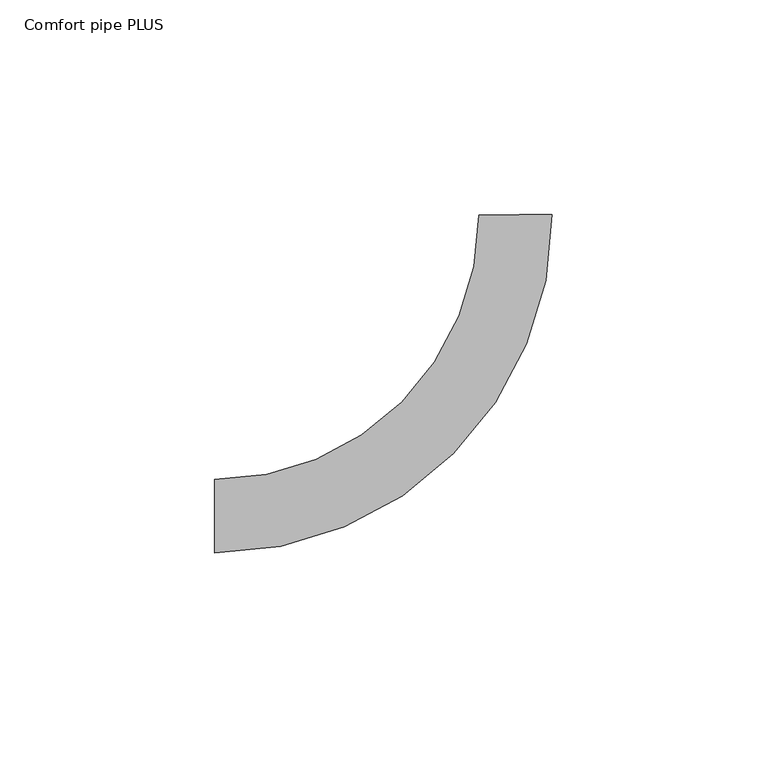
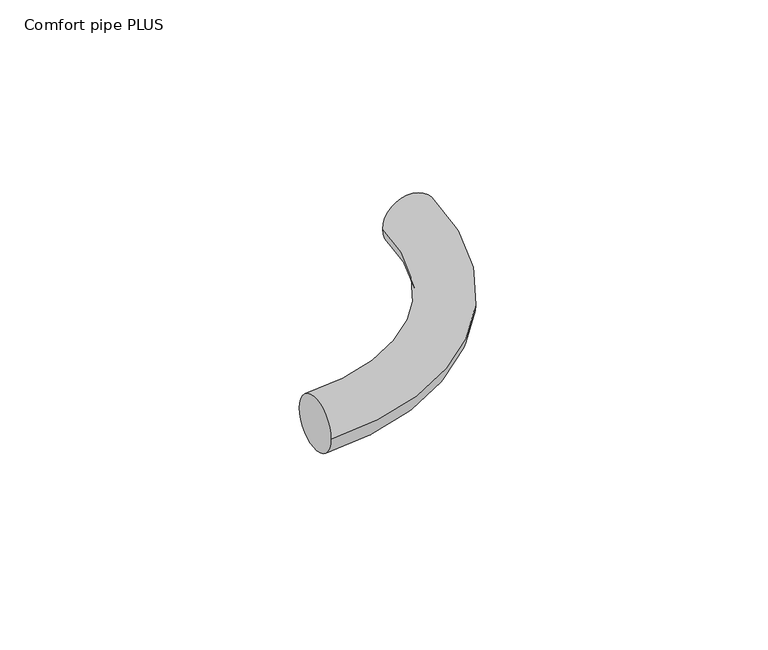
"""IFC4 building model written with IfcOpenShell, lengths in millimetres: pipe fitting geometry, 400_5-_Uponor_curved_Elbow : Comfort pipe PLUS."""

import ifcopenshell
import ifcopenshell.guid

model = None  # the IFC model being written
_history = None  # IfcOwnerHistory: only IFC2X3 demands one
_inside = {}  # id of a spatial element -> (the spatial element, [elements in it])
_under = {}  # id of a project, library or spatial element -> (it, [spatial elements below it])
_declared = {}  # id of a project -> (the project, [libraries it declares])
_typed = {}  # id of a type object -> (the type object, [elements of that type])
_made_of = {}  # id of a material, layer set ... -> (it, [elements and type objects made of it])


def new_model(schema):
    """Start an empty IFC model of exactly this schema.

    Asked for "IFC4X3", IfcOpenShell would pick the latest addendum, in which some entities
    have other attributes; the version numbers below select the first issue.
    IFC2X3 requires an IfcOwnerHistory on every rooted entity: one is made here for all.
    """
    global model, _history
    if schema == "IFC4X3":
        model = ifcopenshell.file(schema_version=(4, 3, 0, 0))
    else:
        model = ifcopenshell.file(schema=schema)
    _inside.clear()
    _under.clear()
    _declared.clear()
    _typed.clear()
    _made_of.clear()
    _history = None
    if model.schema == "IFC2X3":
        org = make("IfcOrganization", Name="unknown")
        user = make(
            "IfcPersonAndOrganization",
            ThePerson=make("IfcPerson", FamilyName="unknown"),
            TheOrganization=org,
        )
        app = make(
            "IfcApplication",
            ApplicationDeveloper=org,
            Version="unknown",
            ApplicationFullName="unknown",
            ApplicationIdentifier="unknown",
        )
        _history = make(
            "IfcOwnerHistory",
            OwningUser=user,
            OwningApplication=app,
            ChangeAction="ADDED",
            CreationDate=0,
        )
    return model


def make(cls, **values):
    """One entity of the class cls with the attributes given. An attribute that is None is left unset."""
    return model.create_entity(
        cls, **{name: value for name, value in values.items() if value is not None}
    )


def rooted(cls, **values):
    """An entity with a GlobalId (a new one), such as an element, a storey or a relation."""
    return make(cls, GlobalId=ifcopenshell.guid.new(), OwnerHistory=_history, **values)


def si_unit(unit_type, name, prefix=None):
    """IfcSIUnit, for example si_unit("LENGTHUNIT", "METRE", prefix="MILLI")."""
    return make("IfcSIUnit", UnitType=unit_type, Prefix=prefix, Name=name)


def assignment(units):
    """IfcUnitAssignment: the units of a project."""
    return None if units is None else make("IfcUnitAssignment", Units=units)


def point(xyz):
    """IfcCartesianPoint."""
    return None if xyz is None else make("IfcCartesianPoint", Coordinates=xyz)


def direction(xyz):
    """IfcDirection."""
    return None if xyz is None else make("IfcDirection", DirectionRatios=xyz)


def frame(location, z_axis=None, x_axis=None):
    """IfcAxis2Placement3D, a coordinate frame: its origin and axes. An axis left out is left unset."""
    return make(
        "IfcAxis2Placement3D",
        Location=point(location),
        Axis=direction(z_axis),
        RefDirection=direction(x_axis),
    )


def origin():
    """The frame at (0, 0, 0) with its axes left unset."""
    return frame((0.0, 0.0, 0.0))


def place(relative_to, where):
    """IfcLocalPlacement: puts the frame where relative to a parent placement (None: the world)."""
    return make(
        "IfcLocalPlacement", PlacementRelTo=relative_to, RelativePlacement=where
    )


def context(
    kind, dimensions, precision=None, world=None, true_north=None, identifier=None
):
    """IfcGeometricRepresentationContext, for example the 3D "Model" context."""
    return make(
        "IfcGeometricRepresentationContext",
        ContextIdentifier=identifier,
        ContextType=kind,
        CoordinateSpaceDimension=dimensions,
        Precision=precision,
        WorldCoordinateSystem=world,
        TrueNorth=true_north,
    )


def project(units=None, contexts=None):
    """IfcProject with its units and contexts."""
    return rooted(
        "IfcProject",
        Name="project",
        RepresentationContexts=contexts,
        UnitsInContext=assignment(units),
    )


def spatial(cls, under=None, at=None, **own):
    """A site, building, storey or space (cls), placed at a placement, below another one or the project."""
    s = rooted(cls, ObjectPlacement=at, **own)
    if under is not None:
        _under.setdefault(under.id(), (under, []))[1].append(s)
    return s


def circle_curve(where, radius):
    """IfcCircle in the frame where."""
    return make("IfcCircle", Position=where, Radius=radius)


def ellipse_curve(where, semi_axis1, semi_axis2):
    """IfcEllipse in the frame where."""
    return make(
        "IfcEllipse", Position=where, SemiAxis1=semi_axis1, SemiAxis2=semi_axis2
    )


def trimmed(basis, trim1, trim2, sense, master):
    """IfcTrimmedCurve: the piece of a basis curve between two trims."""
    return make(
        "IfcTrimmedCurve",
        BasisCurve=basis,
        Trim1=trim1,
        Trim2=trim2,
        SenseAgreement=sense,
        MasterRepresentation=master,
    )


def shape(context_of_items, identifier, shape_type, items):
    """IfcShapeRepresentation: the items that make up one representation, for example the "Body"."""
    return make(
        "IfcShapeRepresentation",
        ContextOfItems=context_of_items,
        RepresentationIdentifier=identifier,
        RepresentationType=shape_type,
        Items=items,
    )


def source(mapping_origin, context_of_items, identifier, shape_type, items):
    """IfcRepresentationMap: a shape defined once, which mapped items show again and again."""
    return make(
        "IfcRepresentationMap",
        MappingOrigin=mapping_origin,
        MappedRepresentation=shape(context_of_items, identifier, shape_type, items),
    )


def transform(
    local_origin,
    x_axis=None,
    y_axis=None,
    z_axis=None,
    scale=None,
    scale2=None,
    scale3=None,
    uniform=True,
):
    """IfcCartesianTransformationOperator3D, or its non-uniform kind. x_axis, y_axis, z_axis: its Axis1, 2, 3."""
    if uniform:
        return make(
            "IfcCartesianTransformationOperator3D",
            Axis1=direction(x_axis),
            Axis2=direction(y_axis),
            LocalOrigin=point(local_origin),
            Scale=scale,
            Axis3=direction(z_axis),
        )
    return make(
        "IfcCartesianTransformationOperator3DnonUniform",
        Axis1=direction(x_axis),
        Axis2=direction(y_axis),
        LocalOrigin=point(local_origin),
        Scale=scale,
        Axis3=direction(z_axis),
        Scale2=scale2,
        Scale3=scale3,
    )


def mapped(mapping_source, mapping_target):
    """IfcMappedItem: shows the shape of a source again, moved by a transform."""
    return make(
        "IfcMappedItem", MappingSource=mapping_source, MappingTarget=mapping_target
    )


def made_of(thing, what):
    """Note that an element or type object is made of a material, layer set ...; save() writes the relation."""
    if what is not None:
        _made_of.setdefault(what.id(), (what, []))[1].append(thing)
    return thing


def element(
    cls,
    number,
    at=None,
    inside=None,
    cuts=None,
    type_object=None,
    material=None,
    context=None,
    identifier="Body",
    shape_type=None,
    held_by="IfcProductDefinitionShape",
    body=None,
    shapes=None,
    **own,
):
    """One element of the class cls, such as IfcWall. Its Tag is "e" and its number.

    at: its placement. inside: the storey or other place that contains it. cuts: it is an
    opening in that element (IfcRelVoidsElement). A single representation is given by context,
    identifier, shape_type and body (its items); several are given by shapes. held_by: the class
    of the entity that holds the representations. save() writes the other relations.
    """
    e = rooted(cls, Tag="e%d" % number, ObjectPlacement=at, **own)
    if body is not None:
        shapes = [shape(context, identifier, shape_type, body)]
    if shapes is not None:
        e.Representation = make(held_by, Representations=shapes)
    if inside is not None:
        _inside.setdefault(inside.id(), (inside, []))[1].append(e)
    if cuts is not None:
        rooted(
            "IfcRelVoidsElement", RelatingBuildingElement=cuts, RelatedOpeningElement=e
        )
    if type_object is not None:
        _typed.setdefault(type_object.id(), (type_object, []))[1].append(e)
    return made_of(e, material)


def aggregate(whole, parts):
    """IfcRelAggregates: a whole, such as a stair, and the parts it consists of."""
    return rooted("IfcRelAggregates", RelatingObject=whole, RelatedObjects=parts)


def save(model, path):
    """Write the relations noted so far, then the file.

    IfcRelAggregates (storeys below a building ...), IfcRelContainedInSpatialStructure (elements
    in a storey), IfcRelDefinesByType, IfcRelAssociatesMaterial and IfcRelDeclares: one each for
    every whole, place, type object, material and project.
    """
    for whole, parts in _under.values():
        aggregate(whole, parts)
    for where, things in _inside.values():
        rooted(
            "IfcRelContainedInSpatialStructure",
            RelatedElements=things,
            RelatingStructure=where,
        )
    for kind, things in _typed.values():
        rooted("IfcRelDefinesByType", RelatedObjects=things, RelatingType=kind)
    for what, things in _made_of.values():
        rooted("IfcRelAssociatesMaterial", RelatedObjects=things, RelatingMaterial=what)
    for by, libraries in _declared.values():
        rooted("IfcRelDeclares", RelatingContext=by, RelatedDefinitions=libraries)
    model.write(path)


def plane_surface(at):
    """IfcPlane: the flat surface through the origin of the frame at, square to its z axis."""
    return make("IfcPlane", Position=at)


def revolved_surface(curve, axis_point, axis_direction):
    """IfcSurfaceOfRevolution: the curve turned about the line through axis_point along axis_direction."""
    return make(
        "IfcSurfaceOfRevolution",
        SweptCurve=make("IfcArbitraryOpenProfileDef", ProfileType="CURVE", Curve=curve),
        AxisPosition=make("IfcAxis1Placement", Location=point(axis_point), Axis=direction(axis_direction)),
    )


def advanced_brep(points, edges, surfaces, faces):
    """IfcAdvancedBrep: a solid bounded by faces that lie on surfaces and meet in shared edges.

    An edge is (start, end): straight between two places in points (the first is 0);
    or (start, end, curve); or (start, end, curve, False) where it runs against its curve.
    A face is (place in surfaces, loops), or (place, loops, False) where it looks against
    its surface's normal. A loop lists edges by number (the first is 1), with a minus sign
    where the edge is run from its end to its start. The first loop is the outer one.
    """
    corners = [point(p) for p in points]
    vertices = [make("IfcVertexPoint", VertexGeometry=c) for c in corners]
    made = []
    for start, end, *more in edges:
        made.append(
            make(
                "IfcEdgeCurve",
                EdgeStart=vertices[start],
                EdgeEnd=vertices[end],
                EdgeGeometry=more[0] if more else make("IfcPolyline", Points=[corners[start], corners[end]]),
                SameSense=more[1] if len(more) > 1 else True,
            )
        )
    hull = []
    for where, loops, *sense in faces:
        bounds = []
        for j, loop in enumerate(loops):
            ring = [make("IfcOrientedEdge", EdgeElement=made[abs(k) - 1], Orientation=k > 0) for k in loop]
            bounds.append(
                make(
                    "IfcFaceOuterBound" if j == 0 else "IfcFaceBound",
                    Bound=make("IfcEdgeLoop", EdgeList=ring),
                    Orientation=True,
                )
            )
        hull.append(make("IfcAdvancedFace", Bounds=bounds, FaceSurface=surfaces[where], SameSense=sense[0] if sense else True))
    return make("IfcAdvancedBrep", Outer=make("IfcClosedShell", CfsFaces=hull))


def comfort_pipe_plus_e869fb8a(model_context):
    return source(origin(), model_context, "Body", "AdvancedBrep", [
        advanced_brep(
        [(-70.1393451, -8.5, 0.0), (-70.1393451, 8.5, 0.0), (8.3604997, 70.1561101, 0.0), (-8.6394667, 70.1223028, 0.0)],
        [
            (0, 1, circle_curve(frame((-70.1393451, 0.0, 0.0), z_axis=(-1.0, 0.0, 0.0), x_axis=(0.0, 1.0, 0.0)), 8.5)),
            (1, 0, circle_curve(frame((-70.1393451, 0.0, 0.0), z_axis=(-1.0, 0.0, 0.0), x_axis=(0.0, 1.0, 0.0)), 8.5)),
            (2, 3, circle_curve(frame((-0.1394835, 70.1392064, 0.0), z_axis=(-0.0019886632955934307, 0.9999980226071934, 0.0), x_axis=(-0.9999980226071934, -0.0019886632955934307, 0.0)), 8.5)),
            (3, 2, circle_curve(frame((-0.1394835, 70.1392064, 0.0), z_axis=(-0.0019886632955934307, 0.9999980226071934, 0.0), x_axis=(-0.9999980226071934, -0.0019886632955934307, 0.0)), 8.5)),
            (3, 1, circle_curve(frame((-70.1393451, 70.0, 0.0), z_axis=(0.0, 0.0, -1.0), x_axis=(0.0, -1.0, 0.0)), 61.5)),
            (0, 2, circle_curve(frame((-70.1393451, 70.0, 0.0), z_axis=(0.0, 0.0, 1.0), x_axis=(0.0, -1.0, 0.0)), 78.5)),
        ],
        [
            plane_surface(frame((-70.1393451, 0.0, 0.0), z_axis=(-1.0, 0.0, 0.0), x_axis=(0.0, 0.0, 1.0))),
            plane_surface(frame((-0.1394835, 70.1392064, 0.0), z_axis=(-0.0019886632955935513, 0.9999980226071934, 0.0), x_axis=(0.0, 0.0, 1.0))),
            revolved_surface(trimmed(ellipse_curve(frame((-70.1393451, 0.0, 0.0), z_axis=(-1.0, 0.0, 0.0), x_axis=(0.0, 1.0, 0.0)), 8.5, 8.5), [point((-70.1393451, -8.5, 0.0))], [point((-70.1393451, 8.5, 0.0))], True, "CARTESIAN"), (-70.1393451, 70.0, 0.0), (0.0, 0.0, 1.0)),
            revolved_surface(trimmed(ellipse_curve(frame((-70.1393451, 0.0, 0.0), z_axis=(-1.0, 0.0, 0.0), x_axis=(0.0, 1.0, 0.0)), 8.5, 8.5), [point((-70.1393451, 8.5, 0.0))], [point((-70.1393451, -8.5, 0.0))], True, "CARTESIAN"), (-70.1393451, 70.0, 0.0), (0.0, 0.0, 1.0)),
        ],
        [
            (0, [[1, 2]]),
            (1, [[3, 4]]),
            (2, [[5, -1, 6, -4]]),
            (3, [[-6, -2, -5, -3]]),
        ],
    ),
    ])


if __name__ == "__main__":
    model = new_model("IFC4")
    model_context = context("Model", 3, world=origin())
    ifc_project = project(units=[si_unit("LENGTHUNIT", "METRE", prefix="MILLI")], contexts=[model_context])
    site = spatial("IfcSite", under=ifc_project)
    building = spatial("IfcBuilding", under=site)
    placement = place(None, origin())
    comfort_pipe_plus_shape = comfort_pipe_plus_e869fb8a(model_context)
    element("IfcPipeFitting", 1, ObjectType="400_5-_Uponor_curved_Elbow : Comfort pipe PLUS", at=placement, inside=building, context=model_context, shape_type="MappedRepresentation", body=[
        mapped(comfort_pipe_plus_shape, transform((0.0, 0.0, 0.0), x_axis=(1.0, 0.0, 0.0), y_axis=(0.0, 1.0, 0.0), z_axis=(0.0, 0.0, 1.0))),
    ])
    save(model, "model.ifc")
